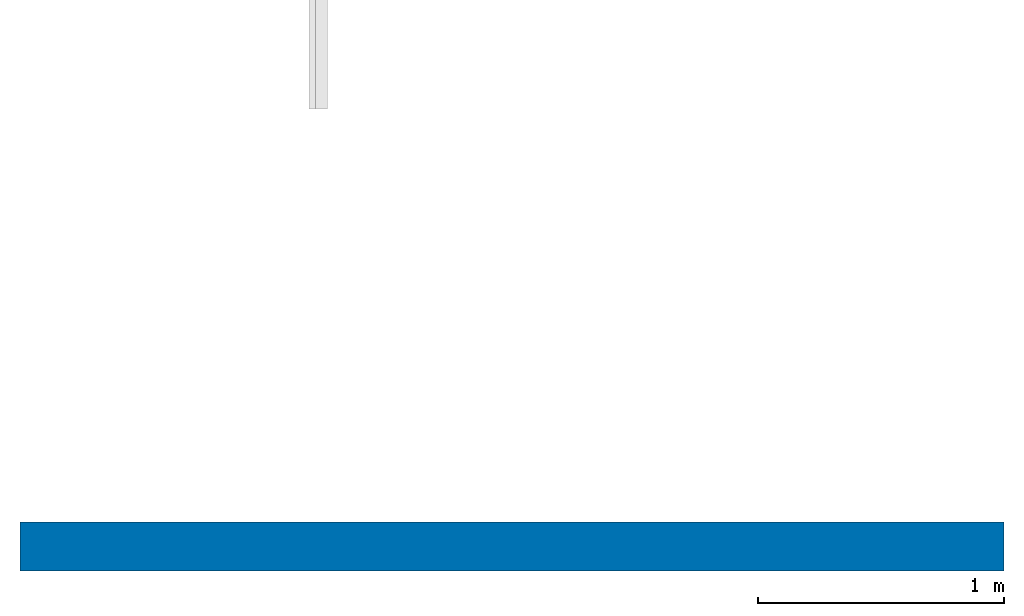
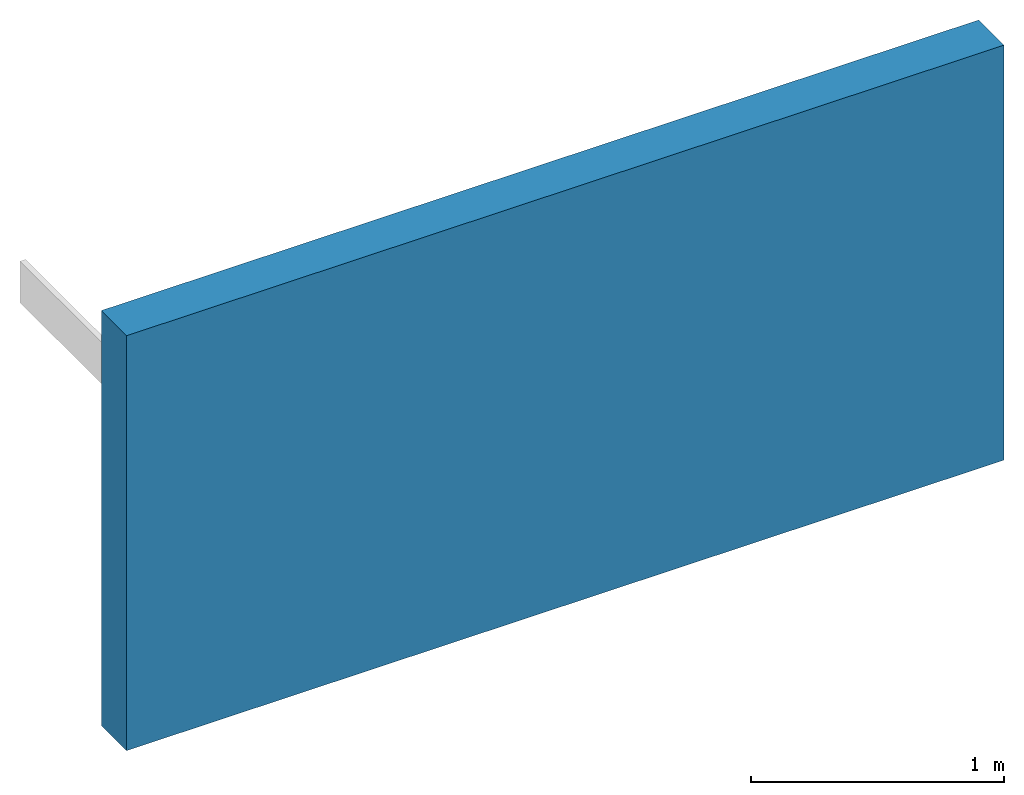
# One storey, part 1 of 2: 1 wall.
"""IFC2X3 building model written with IfcOpenShell, lengths in millimetres."""

from ifc_helpers import new_model, entity, si_unit, converted_unit, derived_unit, direction, frame, frame_2d, origin, place, context, subcontext, project, spatial, rectangle, extrude, material, layer, layer_set, layer_usage, type_object, element, save


model = new_model("IFC2X3")

# Units and contexts
model_context = context("Model", 3, precision=0.01, world=origin(), true_north=direction((6.12303176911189e-17, 1.0)))
body_context = subcontext(model_context, "Body", "Model", "MODEL_VIEW")
ifc_project = project(units=[si_unit("LENGTHUNIT", "METRE", prefix="MILLI"), si_unit("AREAUNIT", "SQUARE_METRE"), si_unit("VOLUMEUNIT", "CUBIC_METRE"), converted_unit("PLANEANGLEUNIT", "DEGREE", entity("IfcRatioMeasure", 0.0174532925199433), si_unit("PLANEANGLEUNIT", "RADIAN"), dimensions=[0, 0, 0, 0, 0, 0, 0]), si_unit("MASSUNIT", "GRAM", prefix="KILO"), derived_unit("MASSDENSITYUNIT", [(si_unit("MASSUNIT", "GRAM", prefix="KILO"), 1), (si_unit("LENGTHUNIT", "METRE"), -3)]), si_unit("TIMEUNIT", "SECOND"), si_unit("FREQUENCYUNIT", "HERTZ"), si_unit("THERMODYNAMICTEMPERATUREUNIT", "DEGREE_CELSIUS"), derived_unit("THERMALTRANSMITTANCEUNIT", [(si_unit("MASSUNIT", "GRAM", prefix="KILO"), 1), (si_unit("THERMODYNAMICTEMPERATUREUNIT", "KELVIN"), -1), (si_unit("TIMEUNIT", "SECOND"), -3)]), derived_unit("VOLUMETRICFLOWRATEUNIT", [(si_unit("LENGTHUNIT", "METRE"), 3), (si_unit("TIMEUNIT", "SECOND"), -1)]), si_unit("ELECTRICCURRENTUNIT", "AMPERE"), si_unit("ELECTRICVOLTAGEUNIT", "VOLT"), si_unit("POWERUNIT", "WATT"), si_unit("FORCEUNIT", "NEWTON", prefix="KILO"), si_unit("ILLUMINANCEUNIT", "LUX"), si_unit("LUMINOUSFLUXUNIT", "LUMEN"), si_unit("LUMINOUSINTENSITYUNIT", "CANDELA"), derived_unit("USERDEFINED", [(si_unit("MASSUNIT", "GRAM", prefix="KILO"), -1), (si_unit("LENGTHUNIT", "METRE"), -2), (si_unit("TIMEUNIT", "SECOND"), 3), (si_unit("LUMINOUSFLUXUNIT", "LUMEN"), 1)]), derived_unit("LINEARVELOCITYUNIT", [(si_unit("LENGTHUNIT", "METRE"), 1), (si_unit("TIMEUNIT", "SECOND"), -1)]), si_unit("PRESSUREUNIT", "PASCAL"), derived_unit("USERDEFINED", [(si_unit("LENGTHUNIT", "METRE"), -2), (si_unit("MASSUNIT", "GRAM", prefix="KILO"), 1), (si_unit("TIMEUNIT", "SECOND"), -2)])], contexts=[model_context])

# Site, building, storey
site_placement = place(None, origin())
site = spatial("IfcSite", under=ifc_project, at=site_placement, Name="Default", CompositionType="ELEMENT")
building_placement = place(site_placement, origin())
building = spatial("IfcBuilding", under=site, at=building_placement, CompositionType="ELEMENT")
storey_placement = place(building_placement, origin())
storey = spatial("IfcBuildingStorey", under=building, at=storey_placement, Name="Level 1", CompositionType="ELEMENT", Elevation=0.0)

# Wall
ifc_material = material(Name="Default Wall")
ifc_layer = layer(ifc_material, 200.0)
ifc_layer_set = layer_set([ifc_layer], Name="Basic Wall:Generic - 200mm")
ifc_layer_usage = layer_usage(ifc_layer_set, "AXIS2", "NEGATIVE", 100.0)
wall_type = type_object("IfcWallType", Name="Basic Wall:Generic - 200mm", PredefinedType="STANDARD", material=ifc_layer_set)
wall_placement = place(storey_placement, frame((-5098.30686940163, 2088.50556739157, 0.0)))
element("IfcWallStandardCase", 1, at=wall_placement, inside=storey, type_object=wall_type, material=ifc_layer_usage, Name="Basic Wall:Generic - 200mm", ObjectType="Basic Wall:Generic - 200mm:249", context=body_context, shape_type="SweptSolid", body=[
    extrude(rectangle(XDim=4000.0, YDim=200.0, at=frame_2d((2000.0, 6.3948846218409e-14), x_axis=(-1.0, 0.0))), origin(), (0.0, 0.0, 1.0), 2000.0),
])

save(model, "model.ifc")
